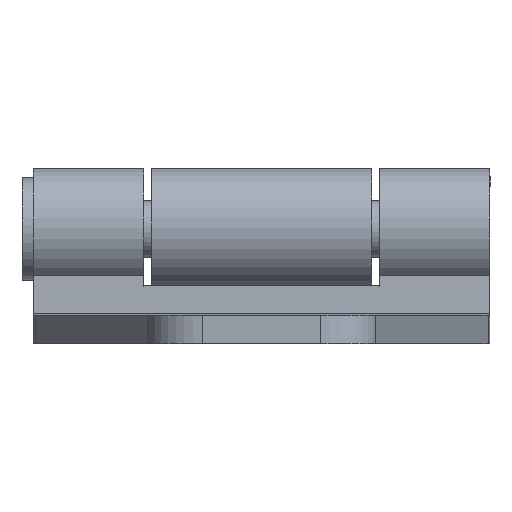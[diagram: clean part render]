
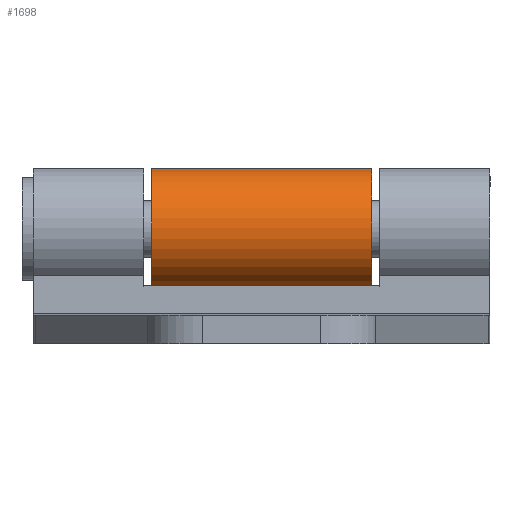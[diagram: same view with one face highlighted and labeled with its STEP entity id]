
A CAD part, left-side view. The second image highlights one B-rep face of the part: STEP entity #1698.
In plain terms, the highlighted cylindrical face has radius 10.675 mm (diameter 21.35 mm), a partial arc.
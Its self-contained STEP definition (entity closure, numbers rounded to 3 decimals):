
#99=CIRCLE('',#1830,10.675);
#100=CIRCLE('',#1831,10.675);
#160=ORIENTED_EDGE('',*,*,#642,.F.);
#161=ORIENTED_EDGE('',*,*,#643,.F.);
#162=ORIENTED_EDGE('',*,*,#644,.T.);
#163=ORIENTED_EDGE('',*,*,#645,.T.);
#642=EDGE_CURVE('',#883,#884,#1052,.T.);
#643=EDGE_CURVE('',#885,#883,#99,.T.);
#644=EDGE_CURVE('',#885,#886,#1053,.F.);
#645=EDGE_CURVE('',#886,#884,#100,.T.);
#883=VERTEX_POINT('',#2485);
#884=VERTEX_POINT('',#2486);
#885=VERTEX_POINT('',#2488);
#886=VERTEX_POINT('',#2490);
#1052=LINE('',#2484,#1232);
#1053=LINE('',#2489,#1233);
#1232=VECTOR('',#1990,1000.);
#1233=VECTOR('',#1993,1000.);
#1412=EDGE_LOOP('',(#160,#161,#162,#163));
#1540=FACE_BOUND('',#1412,.T.);
#1668=CYLINDRICAL_SURFACE('',#1829,10.675);
#1698=ADVANCED_FACE('',(#1540),#1668,.T.);
#1829=AXIS2_PLACEMENT_3D('',#2483,#1988,#1989);
#1830=AXIS2_PLACEMENT_3D('',#2487,#1991,#1992);
#1831=AXIS2_PLACEMENT_3D('',#2491,#1994,#1995);
#1988=DIRECTION('',(0.,-1.,0.));
#1989=DIRECTION('',(0.,0.,-1.));
#1990=DIRECTION('',(0.,-1.,0.));
#1991=DIRECTION('',(0.,1.,0.));
#1992=DIRECTION('',(-1.,0.,0.));
#1993=DIRECTION('',(0.,1.,0.));
#1994=DIRECTION('',(0.,1.,0.));
#1995=DIRECTION('',(-1.,0.,0.));
#2483=CARTESIAN_POINT('',(0.,0.,0.));
#2484=CARTESIAN_POINT('',(6.997,0.,-8.062));
#2485=CARTESIAN_POINT('',(6.997,-20.7,-8.062));
#2486=CARTESIAN_POINT('',(6.997,-59.3,-8.062));
#2487=CARTESIAN_POINT('',(0.,-20.7,0.));
#2488=CARTESIAN_POINT('',(-3.884,-20.7,-9.943));
#2489=CARTESIAN_POINT('',(-3.884,0.,-9.943));
#2490=CARTESIAN_POINT('',(-3.884,-59.3,-9.943));
#2491=CARTESIAN_POINT('',(0.,-59.3,0.));
